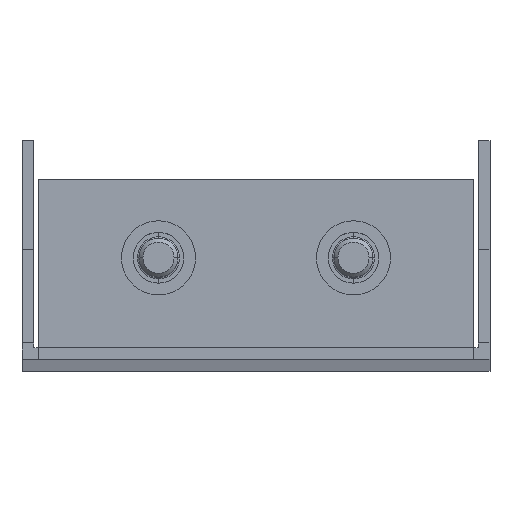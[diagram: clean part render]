
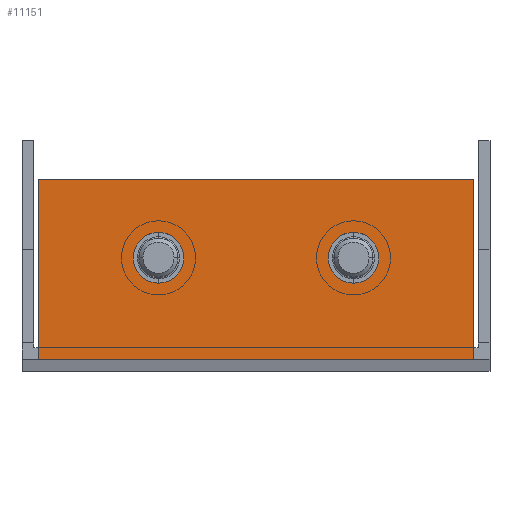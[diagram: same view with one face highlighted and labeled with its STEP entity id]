
A CAD part, top view. The second image highlights one B-rep face of the part: STEP entity #11151.
In plain terms, the highlighted planar face has unit normal (0, 0, 1).
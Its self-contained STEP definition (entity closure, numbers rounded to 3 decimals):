
#3250 = VERTEX_POINT('',#3251);
#3251 = CARTESIAN_POINT('',(-9.25,13.,444.5));
#3257 = EDGE_CURVE('',#3258,#3250,#3260,.T.);
#3258 = VERTEX_POINT('',#3259);
#3259 = CARTESIAN_POINT('',(-15.75,13.,444.5));
#3260 = CIRCLE('',#3261,3.25);
#3261 = AXIS2_PLACEMENT_3D('',#3262,#3263,#3264);
#3262 = CARTESIAN_POINT('',(-12.5,13.,444.5));
#3263 = DIRECTION('',(0.,0.,1.));
#3264 = DIRECTION('',(1.,0.,-0.));
#3292 = VERTEX_POINT('',#3293);
#3293 = CARTESIAN_POINT('',(15.75,13.,444.5));
#3299 = EDGE_CURVE('',#3300,#3292,#3302,.T.);
#3300 = VERTEX_POINT('',#3301);
#3301 = CARTESIAN_POINT('',(9.25,13.,444.5));
#3302 = CIRCLE('',#3303,3.25);
#3303 = AXIS2_PLACEMENT_3D('',#3304,#3305,#3306);
#3304 = CARTESIAN_POINT('',(12.5,13.,444.5));
#3305 = DIRECTION('',(0.,0.,1.));
#3306 = DIRECTION('',(-1.,0.,0.));
#8029 = VERTEX_POINT('',#8030);
#8030 = CARTESIAN_POINT('',(-27.9,0.,444.5));
#8100 = VERTEX_POINT('',#8101);
#8101 = CARTESIAN_POINT('',(27.9,0.,444.5));
#8107 = EDGE_CURVE('',#8029,#8100,#8108,.T.);
#8108 = LINE('',#8109,#8110);
#8109 = CARTESIAN_POINT('',(-30.,0.,444.5));
#8110 = VECTOR('',#8111,1.);
#8111 = DIRECTION('',(1.,0.,0.));
#11030 = VERTEX_POINT('',#11031);
#11031 = CARTESIAN_POINT('',(-27.9,2.1,444.5));
#11046 = EDGE_CURVE('',#11030,#8029,#11047,.T.);
#11047 = LINE('',#11048,#11049);
#11048 = CARTESIAN_POINT('',(-27.9,2.1,444.5));
#11049 = VECTOR('',#11050,1.);
#11050 = DIRECTION('',(0.,-1.,0.));
#11070 = VERTEX_POINT('',#11071);
#11071 = CARTESIAN_POINT('',(27.9,2.1,444.5));
#11077 = EDGE_CURVE('',#11070,#8100,#11078,.T.);
#11078 = LINE('',#11079,#11080);
#11079 = CARTESIAN_POINT('',(27.9,0.,444.5));
#11080 = VECTOR('',#11081,1.);
#11081 = DIRECTION('',(-0.,-1.,-0.));
#11103 = VERTEX_POINT('',#11104);
#11104 = CARTESIAN_POINT('',(27.9,23.,444.5));
#11110 = EDGE_CURVE('',#11070,#11103,#11111,.T.);
#11111 = LINE('',#11112,#11113);
#11112 = CARTESIAN_POINT('',(27.9,0.,444.5));
#11113 = VECTOR('',#11114,1.);
#11114 = DIRECTION('',(0.,1.,0.));
#11125 = EDGE_CURVE('',#11126,#11030,#11128,.T.);
#11126 = VERTEX_POINT('',#11127);
#11127 = CARTESIAN_POINT('',(-27.9,23.,444.5));
#11128 = LINE('',#11129,#11130);
#11129 = CARTESIAN_POINT('',(-27.9,0.,444.5));
#11130 = VECTOR('',#11131,1.);
#11131 = DIRECTION('',(0.,-1.,0.));
#11151 = ADVANCED_FACE('',(#11152,#11162,#11172),#11185,.F.);
#11152 = FACE_BOUND('',#11153,.T.);
#11153 = EDGE_LOOP('',(#11154,#11161));
#11154 = ORIENTED_EDGE('',*,*,#11155,.F.);
#11155 = EDGE_CURVE('',#3250,#3258,#11156,.T.);
#11156 = CIRCLE('',#11157,3.25);
#11157 = AXIS2_PLACEMENT_3D('',#11158,#11159,#11160);
#11158 = CARTESIAN_POINT('',(-12.5,13.,444.5));
#11159 = DIRECTION('',(0.,0.,1.));
#11160 = DIRECTION('',(1.,0.,-0.));
#11161 = ORIENTED_EDGE('',*,*,#3257,.F.);
#11162 = FACE_BOUND('',#11163,.T.);
#11163 = EDGE_LOOP('',(#11164,#11171));
#11164 = ORIENTED_EDGE('',*,*,#11165,.F.);
#11165 = EDGE_CURVE('',#3292,#3300,#11166,.T.);
#11166 = CIRCLE('',#11167,3.25);
#11167 = AXIS2_PLACEMENT_3D('',#11168,#11169,#11170);
#11168 = CARTESIAN_POINT('',(12.5,13.,444.5));
#11169 = DIRECTION('',(0.,0.,1.));
#11170 = DIRECTION('',(-1.,0.,0.));
#11171 = ORIENTED_EDGE('',*,*,#3299,.F.);
#11172 = FACE_BOUND('',#11173,.T.);
#11173 = EDGE_LOOP('',(#11174,#11175,#11176,#11177,#11178,#11179));
#11174 = ORIENTED_EDGE('',*,*,#11125,.T.);
#11175 = ORIENTED_EDGE('',*,*,#11046,.T.);
#11176 = ORIENTED_EDGE('',*,*,#8107,.T.);
#11177 = ORIENTED_EDGE('',*,*,#11077,.F.);
#11178 = ORIENTED_EDGE('',*,*,#11110,.T.);
#11179 = ORIENTED_EDGE('',*,*,#11180,.T.);
#11180 = EDGE_CURVE('',#11103,#11126,#11181,.T.);
#11181 = LINE('',#11182,#11183);
#11182 = CARTESIAN_POINT('',(0.,23.,444.5));
#11183 = VECTOR('',#11184,1.);
#11184 = DIRECTION('',(-1.,0.,0.));
#11185 = PLANE('',#11186);
#11186 = AXIS2_PLACEMENT_3D('',#11187,#11188,#11189);
#11187 = CARTESIAN_POINT('',(0.,0.,444.5));
#11188 = DIRECTION('',(0.,0.,-1.));
#11189 = DIRECTION('',(-1.,0.,-0.));
